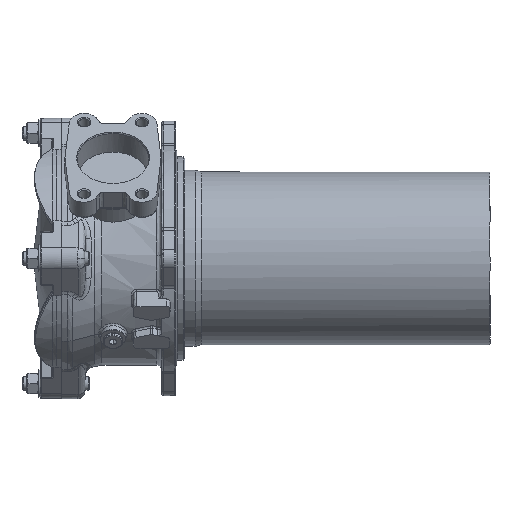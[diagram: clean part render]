
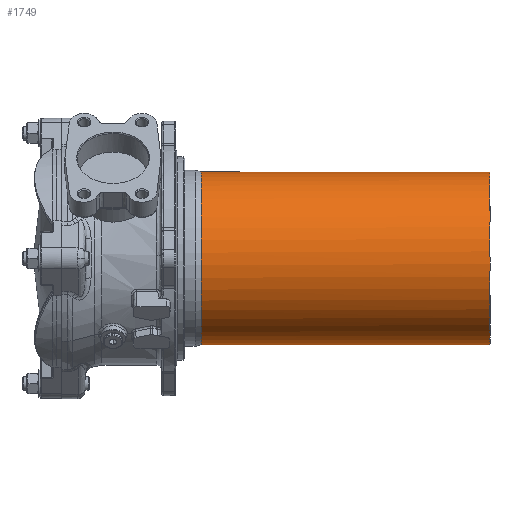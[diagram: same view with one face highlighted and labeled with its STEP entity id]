
A CAD part, front view. The second image highlights one B-rep face of the part: STEP entity #1749.
In plain terms, the highlighted free-form (B-spline) face has degree [2, 1] with [7, 2] control points.
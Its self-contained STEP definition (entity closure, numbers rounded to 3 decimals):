
#1674=CARTESIAN_POINT('V1194',(330.436,
   159.81,0.));
#1675=VERTEX_POINT('V1194',#1674);
#1676=CARTESIAN_POINT('E1943',(330.436,
   159.81,0.));
#1677=CARTESIAN_POINT('E1943',(330.436,
   159.81,131.636));
#1678=CARTESIAN_POINT('E1943',(330.436,
   45.81,65.818));
#1679=CARTESIAN_POINT('E1943',(330.436,
   -68.19,0.));
#1680=CARTESIAN_POINT('E1943',(330.436,
   45.81,-65.818));
#1681=CARTESIAN_POINT('E1943',(330.436,
   159.81,-131.636));
#1682=CARTESIAN_POINT('E1943',(330.436,
   159.81,0.));
#1690=(BOUNDED_CURVE()B_SPLINE_CURVE(2,(#1676,#1677,#1678,#1679,
   #1680,#1681,#1682),.CIRCULAR_ARC.,.T.,.U.)
   B_SPLINE_CURVE_WITH_KNOTS((3,2,2,3),(0.0,1.038,
   2.076,3.114),.UNSPECIFIED.)CURVE()
   GEOMETRIC_REPRESENTATION_ITEM()RATIONAL_B_SPLINE_CURVE((1.0,
   0.5,1.0,0.5,1.0,0.5,1.0)
   )REPRESENTATION_ITEM('E1943'));
#1691=EDGE_CURVE('E1943',#1675,#1675,#1690,.T.);
#1699=CARTESIAN_POINT('F793',(330.436,
   159.81,0.));
#1700=CARTESIAN_POINT('F793',(330.436,
   159.81,-131.636));
#1701=CARTESIAN_POINT('F793',(330.436,45.81,
   -65.818));
#1702=CARTESIAN_POINT('F793',(330.436,
   -68.19,0.));
#1703=CARTESIAN_POINT('F793',(330.436,45.81,
   65.818));
#1704=CARTESIAN_POINT('F793',(330.436,
   159.81,131.636));
#1705=CARTESIAN_POINT('F793',(330.436,
   159.81,0.));
#1706=CARTESIAN_POINT('F793',(76.832,159.81,
   0.));
#1707=CARTESIAN_POINT('F793',(76.832,159.81,
   -131.636));
#1708=CARTESIAN_POINT('F793',(76.832,45.81,
   -65.818));
#1709=CARTESIAN_POINT('F793',(76.832,-68.19,
   0.));
#1710=CARTESIAN_POINT('F793',(76.832,45.81,
   65.818));
#1711=CARTESIAN_POINT('F793',(76.832,159.81,
   131.636));
#1712=CARTESIAN_POINT('F793',(76.832,159.81,
   0.));
#1720=(BOUNDED_SURFACE()B_SPLINE_SURFACE(2,1,((#1699,#1706),(
   #1700,#1707),(#1701,#1708),(#1702,#1709),(#1703,#1710),(
   #1704,#1711),(#1705,#1712)),.CYLINDRICAL_SURF.,.T.,.F.,.U.)
   B_SPLINE_SURFACE_WITH_KNOTS((3,2,2,3),(2,2),(0.0,
   1.038,2.076,3.114),(0.0,1.0),
   .UNSPECIFIED.)GEOMETRIC_REPRESENTATION_ITEM()
   RATIONAL_B_SPLINE_SURFACE(((1.0,1.0),(0.5,
   0.5),(1.0,1.0),(0.5,
   0.5),(1.0,1.0),(0.5,
   0.5),(1.0,1.0)))REPRESENTATION_ITEM('F793')
   SURFACE());
#1721=CARTESIAN_POINT('V1193',(76.832,
   159.81,0.));
#1722=VERTEX_POINT('V1193',#1721);
#1723=CARTESIAN_POINT('E1942',(76.832,
   159.81,0.0));
#1724=CARTESIAN_POINT('E1942',(330.436,
   159.81,0.0));
#1725=QUASI_UNIFORM_CURVE('E1942',1,(#1723,#1724),.POLYLINE_FORM.,
   .F.,.U.);
#1726=EDGE_CURVE('E1942',#1722,#1675,#1725,.T.);
#1727=ORIENTED_EDGE('E1942',*,*,#1726,.T.);
#1728=ORIENTED_EDGE('F804',*,*,#1691,.F.);
#1729=ORIENTED_EDGE('E1942',*,*,#1726,.F.);
#1730=CARTESIAN_POINT('E1944',(76.832,
   159.81,0.));
#1731=CARTESIAN_POINT('E1944',(76.832,
   159.81,-131.636));
#1732=CARTESIAN_POINT('E1944',(76.832,45.81,
   -65.818));
#1733=CARTESIAN_POINT('E1944',(76.832,
   -68.19,0.));
#1734=CARTESIAN_POINT('E1944',(76.832,45.81,
   65.818));
#1735=CARTESIAN_POINT('E1944',(76.832,
   159.81,131.636));
#1736=CARTESIAN_POINT('E1944',(76.832,
   159.81,0.));
#1744=(BOUNDED_CURVE()B_SPLINE_CURVE(2,(#1730,#1731,#1732,#1733,
   #1734,#1735,#1736),.CIRCULAR_ARC.,.T.,.U.)
   B_SPLINE_CURVE_WITH_KNOTS((3,2,2,3),(0.0,45.875,
   91.75,137.624),.UNSPECIFIED.)CURVE()
   GEOMETRIC_REPRESENTATION_ITEM()RATIONAL_B_SPLINE_CURVE((1.0,
   0.5,1.0,0.5,1.0,0.5,1.0)
   )REPRESENTATION_ITEM('E1944'));
#1745=EDGE_CURVE('E1944',#1722,#1722,#1744,.T.);
#1746=ORIENTED_EDGE('E1944',*,*,#1745,.F.);
#1747=EDGE_LOOP('F793',(#1727,#1728,#1729,#1746));
#1748=FACE_OUTER_BOUND('F793',#1747,.T.);
#1749=ADVANCED_FACE('F793',(#1748),#1720,.T.);
